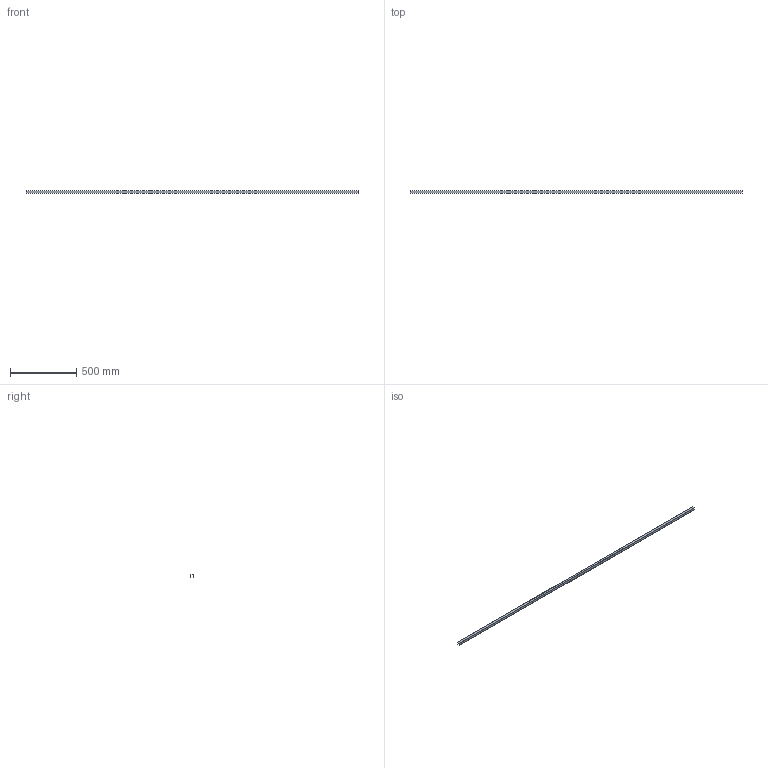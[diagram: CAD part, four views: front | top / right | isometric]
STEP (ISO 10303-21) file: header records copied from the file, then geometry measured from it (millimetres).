
FILE_DESCRIPTION(('STEP AP242'),'1');
FILE_NAME('OPO_65.081.87_volu_3d.stp','2026-01-30T20:52:09',(' '),(' '),'Spatial InterOp 3D',' ',' ');
FILE_SCHEMA(('AP242_MANAGED_MODEL_BASED_3D_ENGINEERING_MIM_LF {1 0 10303 442 1 1 4}'));
Length unit declared in the file: millimetre
Products named in the file (1): 1
Bounding box: 2500 x 22 x 18 mm (x, y, z)
Volume: 140000 mm3; surface area: 285112 mm2
Topology: 1 solids, 1 shells, 56 faces, 148 edges, 98 vertices
Faces by surface type: plane 36, cylinder 20
Entity records: 2200 total; most frequent: CARTESIAN_POINT 303, DIRECTION 302, ORIENTED_EDGE 296, EDGE_CURVE 148, LINE 108, VECTOR 108, VERTEX_POINT 98, AXIS2_PLACEMENT_3D 97
